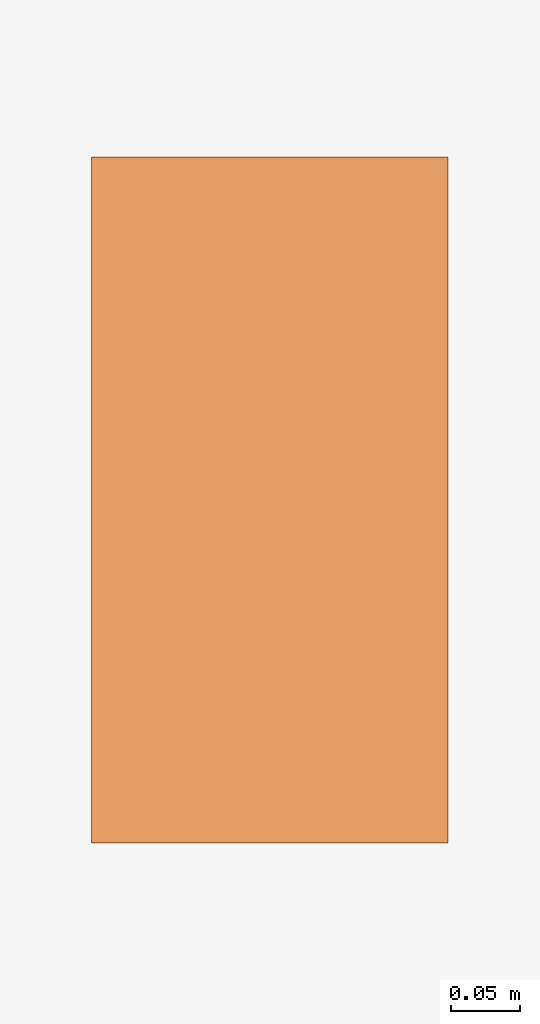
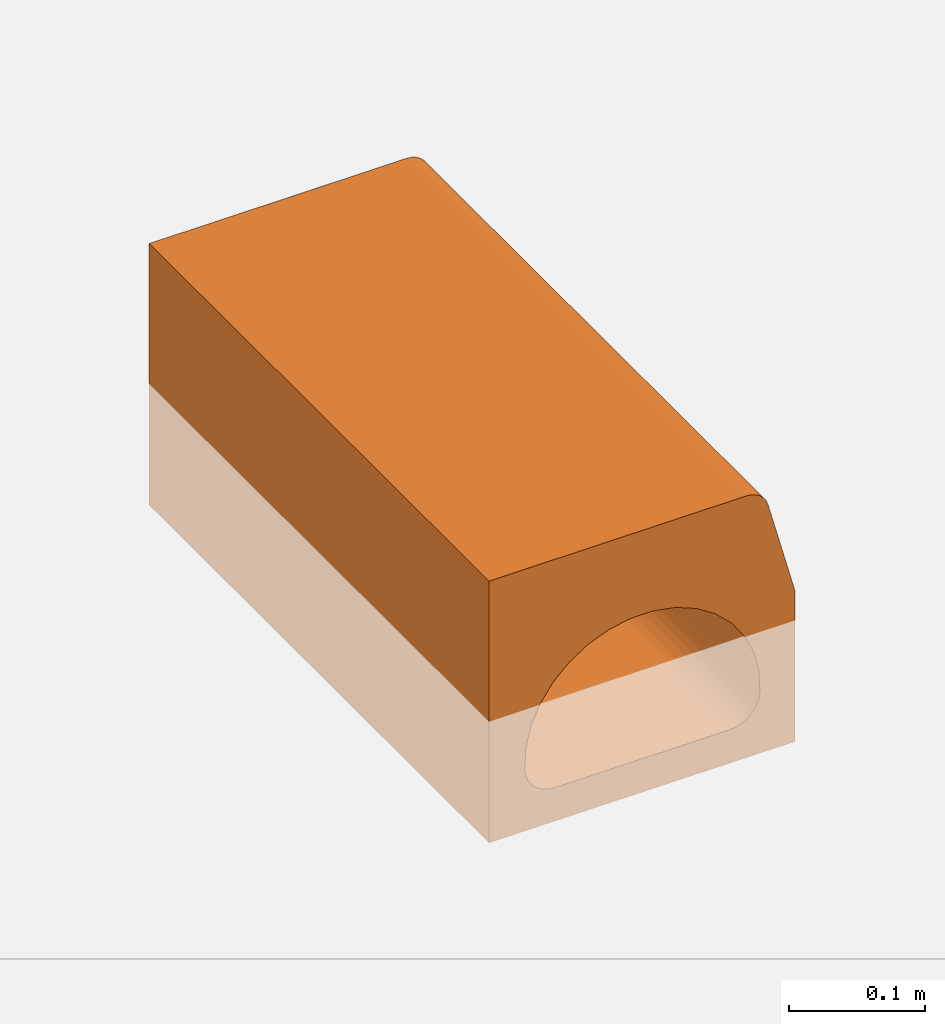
# One storey, part 2 of 2: 1 proxy.
"""IFC2X3 building model written with IfcOpenShell, lengths in millimetres."""

from ifc_helpers import new_model, entity, si_unit, converted_unit, direction, frame, frame_2d, origin, place, context, subcontext, project, spatial, polyline, circle_curve, parameter, trimmed, segment, composite_curve, outline, extrude, source, transform, mapped, material, element, save


model = new_model("IFC2X3")

# Units and contexts
model_context = context("Model", 3, precision=1e-06, world=origin(), true_north=direction((2.0, 6.12303176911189e-17, 1.0)))
context_of_model = context(None, 3, precision=1e-06, world=origin(), true_north=direction((2.0, 6.12303176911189e-17, 1.0)))
body_context = subcontext(model_context, "Body", "Model", "MODEL_VIEW")
ifc_project = project(units=[si_unit("LENGTHUNIT", "METRE", prefix="MILLI"), si_unit("AREAUNIT", "SQUARE_METRE", prefix="MILLI"), si_unit("VOLUMEUNIT", "CUBIC_METRE", prefix="MILLI"), converted_unit("PLANEANGLEUNIT", "DEGREE", entity("IfcRatioMeasure", 0.0174532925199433), si_unit("PLANEANGLEUNIT", "RADIAN"), dimensions=[0, 0, 0, 0, 0, 0, 0]), si_unit("TIMEUNIT", "SECOND")], contexts=[model_context, context_of_model])

# Site, building, storey
site_placement = place(None, origin())
site = spatial("IfcSite", under=ifc_project, at=site_placement, Name="Default", CompositionType="ELEMENT")
building_placement = place(site_placement, origin())
building = spatial("IfcBuilding", under=site, at=building_placement, CompositionType="ELEMENT")
storey_placement = place(building_placement, origin())
storey = spatial("IfcBuildingStorey", under=building, at=storey_placement, Name="Level 1", CompositionType="ELEMENT", Elevation=0.0)

# Proxy
ifc_material = material(Name="ACO Polymer Concrete.")
shared_shape = source(origin(), body_context, "Body", "SweptSolid", [
    extrude(outline(composite_curve([segment(polyline([(-137.652926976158, -162.600721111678), (97.3470730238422, -162.600721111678)]), True, "CONTINUOUS"), segment(polyline([(97.3470730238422, -162.600721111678), (97.3470730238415, 56.0251468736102)]), True, "CONTINUOUS"), segment(trimmed(circle_curve(frame_2d((78.3470730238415, 56.02514687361), x_axis=(0.0, 1.0)), 19.0), [parameter(270.0)], [parameter(345.0)], True, "PARAMETER"), True, "CONTINUOUS"), segment(polyline([(83.2646348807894, 74.3777375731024), (-2.65292697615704, 97.3992788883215)]), True, "CONTINUOUS"), segment(polyline([(-2.65292697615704, 97.3992788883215), (-137.652926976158, 97.3992788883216)]), True, "CONTINUOUS"), segment(polyline([(-137.652926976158, 97.3992788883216), (-137.652926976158, -162.600721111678)]), True, "CONTINUOUS")], self_intersect=False), holes=[composite_curve([segment(trimmed(circle_curve(frame_2d((-77.7141283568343, -32.3910345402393), x_axis=(0.0, 1.0)), 100.052836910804), [parameter(176.951054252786)], [parameter(3.04894574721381)], True, "PARAMETER"), False, "CONTINUOUS"), segment(trimmed(circle_curve(frame_2d((-81.6529269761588, -106.339046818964), x_axis=(0.0, 1.0)), 26.0), [parameter(90.0000000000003)], [parameter(176.951054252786)], True, "PARAMETER"), False, "CONTINUOUS"), segment(polyline([(-107.652926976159, -106.339046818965), (-107.65292697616, 41.5569777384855)]), True, "CONTINUOUS"), segment(trimmed(circle_curve(frame_2d((-81.6529269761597, 41.5569777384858), x_axis=(0.0, 1.0)), 26.0), [parameter(3.04894574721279)], [parameter(90.0000000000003)], True, "PARAMETER"), False, "CONTINUOUS")], self_intersect=False)]), frame((32.6007307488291, 0.0, 27.6529269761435), z_axis=(0.0, 1.0, 0.0), x_axis=(0.0, 0.0, 1.0)), (0.0, 0.0, 1.0), 500.0),
])
proxy_placement = place(storey_placement, frame((-15229.1541432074, -316.659250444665, 0.0)))
element("IfcBuildingElementProxy", 1, at=proxy_placement, inside=storey, material=ifc_material, Name="Civil-Drainage-Channel-ACO-KerbDrain-KD200:T0133 - Blind Channel - 500mm LG - 235mm High:T0133 - Blind Channel - 500mm LG - 235mm High", ObjectType="T0133 - Blind Channel - 500mm LG - 235mm High", CompositionType="ELEMENT", context=body_context, shape_type="MappedRepresentation", body=[
    mapped(shared_shape, transform((0.0, 0.0, 0.0), scale=1.0)),
])

save(model, "model.ifc")
